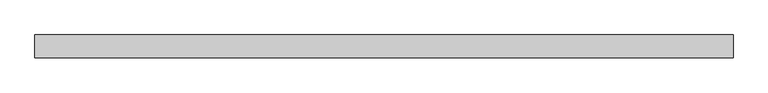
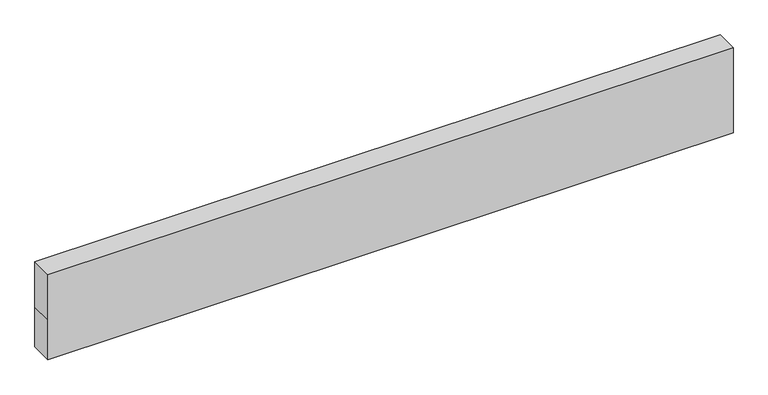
"""IFC4 building model written with IfcOpenShell, lengths in millimetres: plate geometry, Panneau système : Vitré."""

from ifc_helpers import new_model, si_unit, frame, origin, place, context, project, spatial, polyline, outline, extrude, source, transform, mapped, element, save


def plate_98374eae(model_context):
    return source(origin(), model_context, "Body", "SweptSolid", [
        extrude(outline(polyline([(0.0, -609.9999999), (0.0, 609.9999999), (75.0, 609.9999999), (160.1375205, 609.9999999), (160.1375205, -609.9999999), (75.0, -609.9999999), (0.0, -609.9999999)])), frame((0.0, -20.0, 0.0), z_axis=(0.0, 1.0, 0.0), x_axis=(0.0, 0.0, 1.0)), (0.0, 0.0, 1.0), 40.0),
    ])


if __name__ == "__main__":
    model = new_model("IFC4")
    model_context = context("Model", 3, world=origin())
    ifc_project = project(units=[si_unit("LENGTHUNIT", "METRE", prefix="MILLI")], contexts=[model_context])
    site = spatial("IfcSite", under=ifc_project)
    building = spatial("IfcBuilding", under=site)
    placement = place(None, origin())
    plate_shape = plate_98374eae(model_context)
    element("IfcPlate", 1, ObjectType="Panneau système : Vitré", at=placement, inside=building, context=model_context, shape_type="MappedRepresentation", body=[
        mapped(plate_shape, transform((0.0, 0.0, 0.0), x_axis=(1.0, 0.0, 0.0), y_axis=(0.0, 1.0, 0.0), z_axis=(0.0, 0.0, 1.0))),
    ])
    save(model, "model.ifc")
